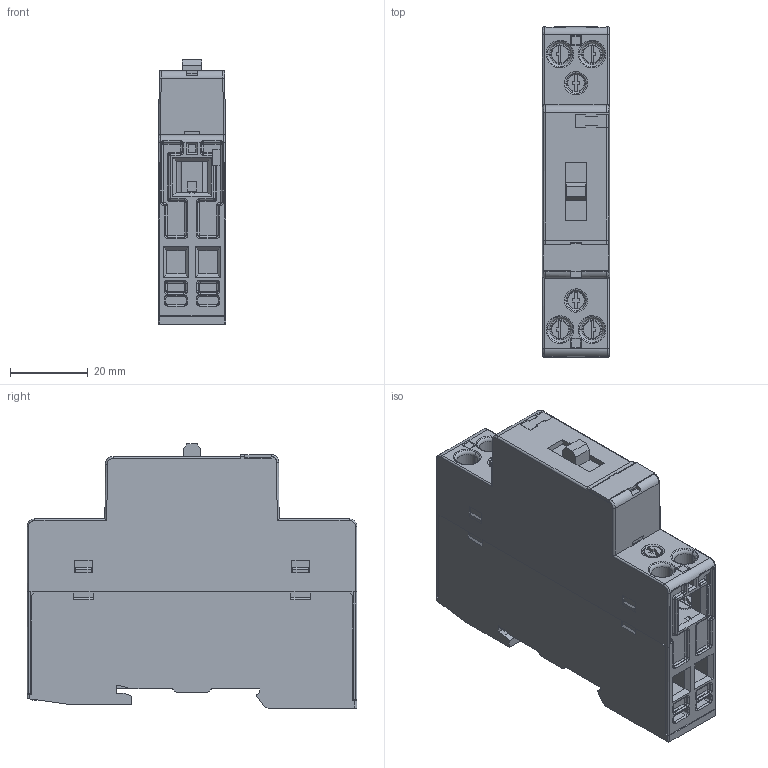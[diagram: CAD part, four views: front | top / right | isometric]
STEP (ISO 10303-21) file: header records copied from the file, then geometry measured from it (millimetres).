
FILE_DESCRIPTION (( 'STEP AP214' ), '1' );
FILE_NAME ('RAC20.STEP', '2024-04-11T06:38:47', ( '' ), ( '' ), 'SwSTEP 2.0', 'SolidWorks 2022', '' );
FILE_SCHEMA (( 'AUTOMOTIVE_DESIGN' ));
Length unit declared in the file: millimetre
Products named in the file (1): RAC20
Bounding box: 17.5 x 85 x 68.2 mm (x, y, z)
Volume: 75463.9 mm3; surface area: 19137.9 mm2
Topology: 1 solids, 1 shells, 1088 faces, 2875 edges, 1786 vertices
Faces by surface type: plane 659, cylinder 253, bspline 120, torus 44, cone 12
Entity records: 36659 total; most frequent: CARTESIAN_POINT 10183, ORIENTED_EDGE 5742, DIRECTION 5117, EDGE_CURVE 2871, LINE 2049, VECTOR 2049, VERTEX_POINT 1786, AXIS2_PLACEMENT_3D 1534
